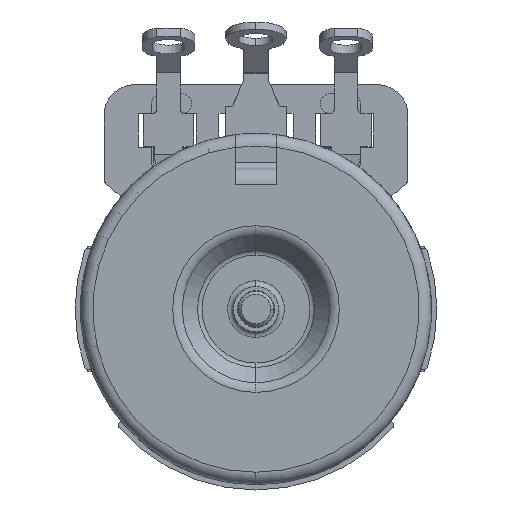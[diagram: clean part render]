
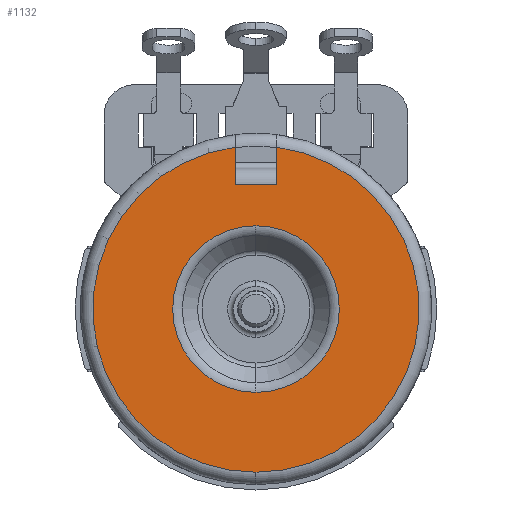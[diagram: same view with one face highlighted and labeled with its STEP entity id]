
A CAD part, front view. The second image highlights one B-rep face of the part: STEP entity #1132.
In plain terms, the highlighted planar face has unit normal (0, -1, 0).
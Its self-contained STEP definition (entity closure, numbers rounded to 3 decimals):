
#376 = ORIENTED_EDGE ( 'NONE', *, *, #484, .T. ) ;
#484 = EDGE_CURVE ( 'NONE', #1998, #22510, #4733, .T. ) ;
#945 = DIRECTION ( 'NONE',  ( 0., 1., 0. ) ) ;
#1106 = DIRECTION ( 'NONE',  ( 0., 0., -1. ) ) ;
#1132 = ADVANCED_FACE ( 'NONE', ( #11900, #16219 ), #20848, .T. ) ;
#1181 = EDGE_LOOP ( 'NONE', ( #19328, #3554, #25332, #15379, #376 ) ) ;
#1559 = AXIS2_PLACEMENT_3D ( 'NONE', #26467, #20365, #1106 ) ;
#1998 = VERTEX_POINT ( 'NONE', #5165 ) ;
#2295 = CARTESIAN_POINT ( 'NONE',  ( 0., 0., -5.603 ) ) ;
#3554 = ORIENTED_EDGE ( 'NONE', *, *, #15956, .T. ) ;
#3921 = CARTESIAN_POINT ( 'NONE',  ( 1.397, 0., 8.382 ) ) ;
#4253 = DIRECTION ( 'NONE',  ( 0., 0., 1. ) ) ;
#4717 = ORIENTED_EDGE ( 'NONE', *, *, #22788, .T. ) ;
#4733 = CIRCLE ( 'NONE', #8304, 10.973 ) ;
#5165 = CARTESIAN_POINT ( 'NONE',  ( 0., 0., -10.973 ) ) ;
#6206 = EDGE_CURVE ( 'NONE', #15865, #1998, #18017, .T. ) ;
#6236 = VECTOR ( 'NONE', #24910, 1000. ) ;
#6517 = CIRCLE ( 'NONE', #22116, 5.603 ) ;
#7338 = DIRECTION ( 'NONE',  ( 0., 0., -1. ) ) ;
#8304 = AXIS2_PLACEMENT_3D ( 'NONE', #19359, #13205, #10982 ) ;
#8640 = ORIENTED_EDGE ( 'NONE', *, *, #10142, .T. ) ;
#10142 = EDGE_CURVE ( 'NONE', #27113, #17669, #14007, .T. ) ;
#10351 = CARTESIAN_POINT ( 'NONE',  ( -5.207, 0., 0. ) ) ;
#10742 = VECTOR ( 'NONE', #4253, 1000. ) ;
#10976 = DIRECTION ( 'NONE',  ( 0., -1., 0. ) ) ;
#10982 = DIRECTION ( 'NONE',  ( 0., 0., -1. ) ) ;
#11900 = FACE_OUTER_BOUND ( 'NONE', #1181, .T. ) ;
#11902 = CARTESIAN_POINT ( 'NONE',  ( 0., 0., 5.603 ) ) ;
#12326 = CARTESIAN_POINT ( 'NONE',  ( -1.397, 0., 10.884 ) ) ;
#12461 = CARTESIAN_POINT ( 'NONE',  ( -1.397, 0., 8.382 ) ) ;
#12661 = AXIS2_PLACEMENT_3D ( 'NONE', #16969, #10976, #19495 ) ;
#13205 = DIRECTION ( 'NONE',  ( 0., -1., 0. ) ) ;
#14007 = CIRCLE ( 'NONE', #1559, 5.603 ) ;
#15313 = AXIS2_PLACEMENT_3D ( 'NONE', #10351, #20439, #16633 ) ;
#15379 = ORIENTED_EDGE ( 'NONE', *, *, #6206, .T. ) ;
#15742 = VERTEX_POINT ( 'NONE', #18055 ) ;
#15865 = VERTEX_POINT ( 'NONE', #12326 ) ;
#15956 = EDGE_CURVE ( 'NONE', #26081, #15742, #16377, .T. ) ;
#16219 = FACE_BOUND ( 'NONE', #23072, .T. ) ;
#16377 = LINE ( 'NONE', #12461, #6236 ) ;
#16633 = DIRECTION ( 'NONE',  ( 0., 0., -1. ) ) ;
#16810 = CARTESIAN_POINT ( 'NONE',  ( 1.397, 0., 12.522 ) ) ;
#16969 = CARTESIAN_POINT ( 'NONE',  ( 0., 0., 0. ) ) ;
#17669 = VERTEX_POINT ( 'NONE', #2295 ) ;
#18017 = CIRCLE ( 'NONE', #12661, 10.973 ) ;
#18055 = CARTESIAN_POINT ( 'NONE',  ( -1.397, 0., 8.382 ) ) ;
#19328 = ORIENTED_EDGE ( 'NONE', *, *, #20707, .F. ) ;
#19359 = CARTESIAN_POINT ( 'NONE',  ( 0., 0., 0. ) ) ;
#19495 = DIRECTION ( 'NONE',  ( 0., 0., -1. ) ) ;
#20365 = DIRECTION ( 'NONE',  ( 0., 1., 0. ) ) ;
#20439 = DIRECTION ( 'NONE',  ( 0., -1., 0. ) ) ;
#20707 = EDGE_CURVE ( 'NONE', #26081, #22510, #27543, .T. ) ;
#20834 = DIRECTION ( 'NONE',  ( 0., 0., -1. ) ) ;
#20848 = PLANE ( 'NONE',  #15313 ) ;
#22116 = AXIS2_PLACEMENT_3D ( 'NONE', #26737, #945, #7338 ) ;
#22510 = VERTEX_POINT ( 'NONE', #24731 ) ;
#22657 = CARTESIAN_POINT ( 'NONE',  ( -1.397, 0., 12.522 ) ) ;
#22787 = LINE ( 'NONE', #22657, #23558 ) ;
#22788 = EDGE_CURVE ( 'NONE', #17669, #27113, #6517, .T. ) ;
#23072 = EDGE_LOOP ( 'NONE', ( #4717, #8640 ) ) ;
#23558 = VECTOR ( 'NONE', #20834, 1000. ) ;
#23952 = EDGE_CURVE ( 'NONE', #15865, #15742, #22787, .T. ) ;
#24731 = CARTESIAN_POINT ( 'NONE',  ( 1.397, 0., 10.884 ) ) ;
#24910 = DIRECTION ( 'NONE',  ( -1., 0., 0. ) ) ;
#25332 = ORIENTED_EDGE ( 'NONE', *, *, #23952, .F. ) ;
#26081 = VERTEX_POINT ( 'NONE', #3921 ) ;
#26467 = CARTESIAN_POINT ( 'NONE',  ( 0., 0., 0. ) ) ;
#26737 = CARTESIAN_POINT ( 'NONE',  ( 0., 0., 0. ) ) ;
#27113 = VERTEX_POINT ( 'NONE', #11902 ) ;
#27543 = LINE ( 'NONE', #16810, #10742 ) ;
